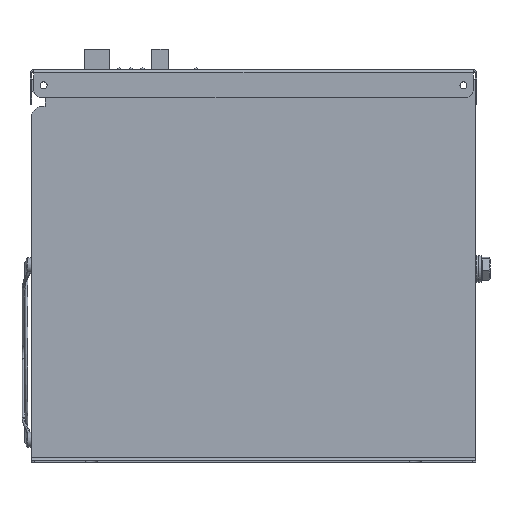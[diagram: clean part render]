
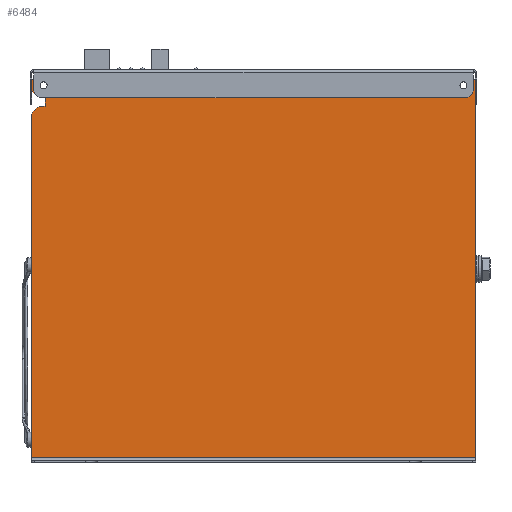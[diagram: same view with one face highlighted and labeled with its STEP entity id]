
A CAD part, left-side view. The second image highlights one B-rep face of the part: STEP entity #6484.
In plain terms, the highlighted planar face has unit normal (-1, 0, 0).
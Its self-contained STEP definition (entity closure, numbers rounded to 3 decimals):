
#6484=ADVANCED_FACE('',(#20556,#20558,#20560),#20562,.F.);
#20556=FACE_BOUND('',#20557,.T.);
#20557=EDGE_LOOP('',(#49925,#49926,#49927,#49928,#49929,#49930,#49931,#49932,#49933,
#49934));
#20558=FACE_BOUND('',#20559,.T.);
#20559=EDGE_LOOP('',(#49935));
#20560=FACE_BOUND('',#20561,.T.);
#20561=EDGE_LOOP('',(#49936));
#20562=PLANE('',#20563);
#20563=AXIS2_PLACEMENT_3D('',#20564,#20565,#20566);
#20564=CARTESIAN_POINT('',(-59.852,12.642,60.711));
#20565=DIRECTION('',(1.,0.,0.));
#20566=DIRECTION('',(0.,1.,0.));
#49925=ORIENTED_EDGE('',*,*,#73043,.T.);
#49926=ORIENTED_EDGE('',*,*,#71901,.F.);
#49927=ORIENTED_EDGE('',*,*,#72950,.F.);
#49928=ORIENTED_EDGE('',*,*,#72949,.F.);
#49929=ORIENTED_EDGE('',*,*,#72947,.F.);
#49930=ORIENTED_EDGE('',*,*,#72945,.T.);
#49931=ORIENTED_EDGE('',*,*,#72942,.T.);
#49932=ORIENTED_EDGE('',*,*,#72940,.T.);
#49933=ORIENTED_EDGE('',*,*,#72938,.F.);
#49934=ORIENTED_EDGE('',*,*,#72936,.F.);
#49935=ORIENTED_EDGE('',*,*,#72962,.T.);
#49936=ORIENTED_EDGE('',*,*,#72961,.T.);
#71901=EDGE_CURVE('',#83051,#83053,#83054,.T.);
#72936=EDGE_CURVE('',#84643,#84645,#84646,.T.);
#72938=EDGE_CURVE('',#84645,#84648,#84649,.F.);
#72940=EDGE_CURVE('',#84651,#84648,#84652,.T.);
#72942=EDGE_CURVE('',#84654,#84651,#84655,.T.);
#72945=EDGE_CURVE('',#84657,#84654,#84659,.T.);
#72947=EDGE_CURVE('',#84657,#84660,#84662,.F.);
#72949=EDGE_CURVE('',#84660,#84663,#84665,.T.);
#72950=EDGE_CURVE('',#84663,#83051,#84666,.F.);
#72961=EDGE_CURVE('',#84677,#84677,#84678,.T.);
#72962=EDGE_CURVE('',#84679,#84679,#84680,.T.);
#73043=EDGE_CURVE('',#84643,#83053,#84795,.T.);
#83051=VERTEX_POINT('',#102429);
#83053=VERTEX_POINT('',#102433);
#83054=LINE('',#102434,#102435);
#84643=VERTEX_POINT('',#106546);
#84645=VERTEX_POINT('',#106550);
#84646=LINE('',#106551,#106552);
#84648=VERTEX_POINT('',#106557);
#84649=CIRCLE('',#106558,7.5);
#84651=VERTEX_POINT('',#106565);
#84652=LINE('',#106566,#106567);
#84654=VERTEX_POINT('',#106572);
#84655=LINE('',#106573,#106574);
#84657=VERTEX_POINT('',#106579);
#84659=LINE('',#106583,#106584);
#84660=VERTEX_POINT('',#106586);
#84662=CIRCLE('',#106590,7.5);
#84663=VERTEX_POINT('',#106594);
#84665=LINE('',#106598,#106599);
#84666=CIRCLE('',#106601,7.5);
#84677=VERTEX_POINT('',#106635);
#84678=CIRCLE('',#106636,3.05);
#84679=VERTEX_POINT('',#106640);
#84680=CIRCLE('',#106641,3.05);
#84795=LINE('',#106971,#106972);
#102429=CARTESIAN_POINT('',(-59.852,-121.358,170.711));
#102433=CARTESIAN_POINT('',(-59.852,-121.358,-53.789));
#102434=CARTESIAN_POINT('',(-59.852,-121.358,170.711));
#102435=VECTOR('',#102436,1.);
#102436=DIRECTION('',(0.,0.,-1.));
#106546=CARTESIAN_POINT('',(-59.852,146.642,-53.789));
#106550=CARTESIAN_POINT('',(-59.852,146.642,150.711));
#106551=CARTESIAN_POINT('',(-59.852,146.642,-53.789));
#106552=VECTOR('',#106553,1.);
#106553=DIRECTION('',(0.,0.,1.));
#106557=CARTESIAN_POINT('',(-59.852,139.142,158.211));
#106558=AXIS2_PLACEMENT_3D('',#106559,#106560,#106561);
#106559=CARTESIAN_POINT('',(-59.852,139.142,150.711));
#106560=DIRECTION('',(-1.,0.,0.));
#106561=DIRECTION('',(0.,0.,1.));
#106565=CARTESIAN_POINT('',(-59.852,138.142,158.211));
#106566=CARTESIAN_POINT('',(-59.852,138.142,158.211));
#106567=VECTOR('',#106568,1.);
#106568=DIRECTION('',(0.,1.,0.));
#106572=CARTESIAN_POINT('',(-59.852,138.142,163.211));
#106573=CARTESIAN_POINT('',(-59.852,138.142,163.211));
#106574=VECTOR('',#106575,1.);
#106575=DIRECTION('',(0.,0.,-1.));
#106579=CARTESIAN_POINT('',(-59.852,139.142,163.211));
#106583=CARTESIAN_POINT('',(-59.852,139.142,163.211));
#106584=VECTOR('',#106585,1.);
#106585=DIRECTION('',(0.,-1.,0.));
#106586=CARTESIAN_POINT('',(-59.852,139.142,178.211));
#106590=AXIS2_PLACEMENT_3D('',#106591,#106592,#106593);
#106591=CARTESIAN_POINT('',(-59.852,139.142,170.711));
#106592=DIRECTION('',(-1.,0.,0.));
#106593=DIRECTION('',(0.,0.,1.));
#106594=CARTESIAN_POINT('',(-59.852,-113.858,178.211));
#106598=CARTESIAN_POINT('',(-59.852,139.142,178.211));
#106599=VECTOR('',#106600,1.);
#106600=DIRECTION('',(0.,-1.,0.));
#106601=AXIS2_PLACEMENT_3D('',#106602,#106603,#106604);
#106602=CARTESIAN_POINT('',(-59.852,-113.858,170.711));
#106603=DIRECTION('',(-1.,0.,0.));
#106604=DIRECTION('',(0.,-1.,0.));
#106635=CARTESIAN_POINT('',(-59.852,-110.808,170.711));
#106636=AXIS2_PLACEMENT_3D('',#106637,#106638,#106639);
#106637=CARTESIAN_POINT('',(-59.852,-113.858,170.711));
#106638=DIRECTION('',(1.,0.,0.));
#106639=DIRECTION('',(0.,1.,0.));
#106640=CARTESIAN_POINT('',(-59.852,142.192,170.711));
#106641=AXIS2_PLACEMENT_3D('',#106642,#106643,#106644);
#106642=CARTESIAN_POINT('',(-59.852,139.142,170.711));
#106643=DIRECTION('',(1.,0.,0.));
#106644=DIRECTION('',(0.,1.,0.));
#106971=CARTESIAN_POINT('',(-59.852,146.642,-53.789));
#106972=VECTOR('',#106973,1.);
#106973=DIRECTION('',(0.,-1.,0.));
